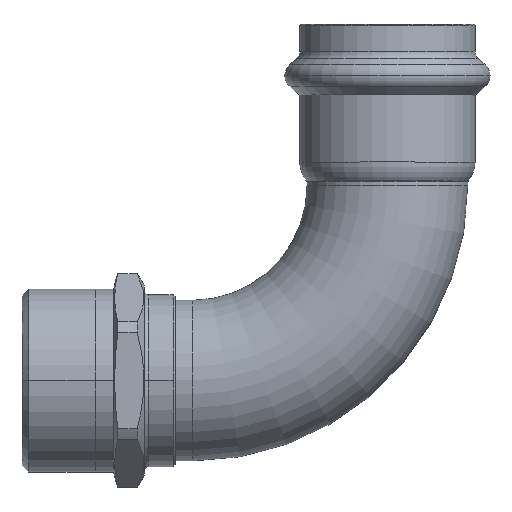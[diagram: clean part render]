
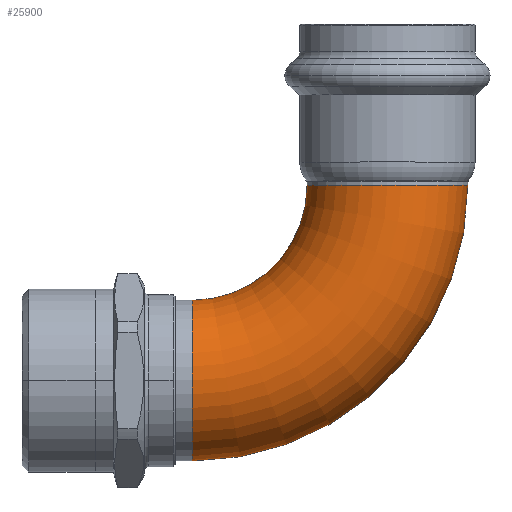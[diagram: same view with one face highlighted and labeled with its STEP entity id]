
A CAD part, top view. The second image highlights one B-rep face of the part: STEP entity #25900.
In plain terms, the highlighted toroidal (fillet/blend) face has major radius 51 mm and minor radius 21 mm.
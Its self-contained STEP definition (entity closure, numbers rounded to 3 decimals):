
#16620=CARTESIAN_POINT('',(902.154,71.151,21.));
#16630=VERTEX_POINT('',#16620);
#16660=CARTESIAN_POINT('',(902.154,71.151,
0.));
#16670=DIRECTION('',(0.,1.,0.));
#16680=DIRECTION('',(0.,0.,1.));
#16690=AXIS2_PLACEMENT_3D('',#16660,#16670,#16680);
#16700=CIRCLE('',#16690,21.);
#16710=CARTESIAN_POINT('',(902.154,71.151,-21.));
#16720=VERTEX_POINT('',#16710);
#16730=EDGE_CURVE('',#16630,#16720,#16700,.T.);
#16890=CARTESIAN_POINT('',(902.154,71.151,51.));
#16900=DIRECTION('',(-1.,0.,0.));
#16910=DIRECTION('',(0.,1.,0.));
#16920=AXIS2_PLACEMENT_3D('',#16890,#16900,#16910);
#16930=TOROIDAL_SURFACE('',#16920,51.,21.);
#16940=CARTESIAN_POINT('',(902.154,71.151,51.));
#16950=DIRECTION('',(-1.,0.,0.));
#16960=DIRECTION('',(0.,1.,0.));
#16970=AXIS2_PLACEMENT_3D('',#16940,#16950,#16960);
#16980=CIRCLE('',#16970,72.);
#16990=CARTESIAN_POINT('',(902.154,143.151,51.));
#17000=VERTEX_POINT('',#16990);
#17010=EDGE_CURVE('',#17000,#16720,#16980,.T.);
#17080=CARTESIAN_POINT('',(902.154,101.151,51.));
#17090=VERTEX_POINT('',#17080);
#17120=CARTESIAN_POINT('',(902.154,71.151,51.));
#17130=DIRECTION('',(-1.,0.,0.));
#17140=DIRECTION('',(0.,1.,0.));
#17150=AXIS2_PLACEMENT_3D('',#17120,#17130,#17140);
#17160=CIRCLE('',#17150,30.);
#17170=EDGE_CURVE('',#17090,#16630,#17160,.T.);
#25780=CARTESIAN_POINT('',(902.154,122.151,51.));
#25790=DIRECTION('',(0.,0.,-1.));
#25800=DIRECTION('',(0.,-1.,0.));
#25810=AXIS2_PLACEMENT_3D('',#25780,#25790,#25800);
#25820=CIRCLE('',#25810,21.);
#25830=EDGE_CURVE('',#17000,#17090,#25820,.T.);
#25840=ORIENTED_EDGE('',*,*,#25830,.T.);
#25850=ORIENTED_EDGE('',*,*,#17010,.F.);
#25860=ORIENTED_EDGE('',*,*,#16730,.T.);
#25870=ORIENTED_EDGE('',*,*,#17170,.T.);
#25880=EDGE_LOOP('',(#25870,#25860,#25850,#25840));
#25890=FACE_OUTER_BOUND('',#25880,.T.);
#25900=ADVANCED_FACE('',(#25890),#16930,.T.);
